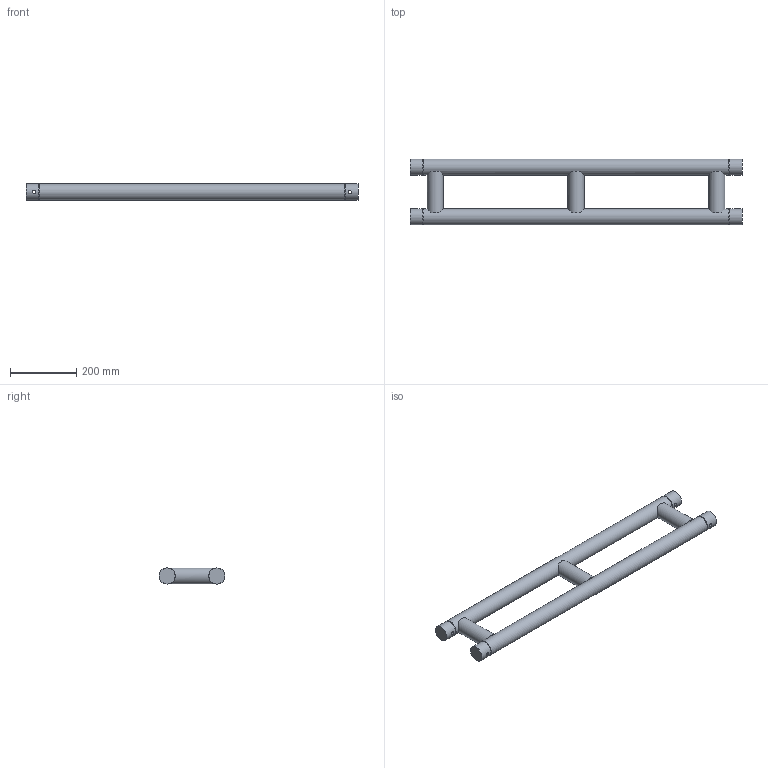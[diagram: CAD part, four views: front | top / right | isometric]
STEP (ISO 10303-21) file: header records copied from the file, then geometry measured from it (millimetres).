
FILE_DESCRIPTION(/* description */ (''),/* implementation_level */ '2;1');
FILE_NAME(/* name */ 'C:\Users\adrian.toca\Desktop\111050537.stp',/* time_stamp */ '2016-09-27T16:55:20+03:00',/* author */ ('adrian.toca'),/* organization */ (''),/* preprocessor_version */ 'ST-DEVELOPER v15.6',/* originating_system */ 'Autodesk Inventor 2015',/* authorisation */ '');
FILE_SCHEMA (('AUTOMOTIVE_DESIGN { 1 0 10303 214 3 1 1 }'));
Length unit declared in the file: millimetre
Products named in the file (1): 260031014
Bounding box: 1000 x 198.3 x 48.3 mm (x, y, z)
Volume: 4244735.3 mm3; surface area: 359021.5 mm2
Topology: 1 solids, 1 shells, 37 faces, 107 edges, 68 vertices
Faces by surface type: plane 20, cylinder 13, cone 4
Full cylindrical faces by diameter (mm): 10 x4, 48.3 x9
Entity records: 1346 total; most frequent: CARTESIAN_POINT 442, DIRECTION 168, ORIENTED_EDGE 136, AXIS2_PLACEMENT_3D 78, EDGE_LOOP 72, EDGE_CURVE 68, VERTEX_POINT 56, STYLED_ITEM 38
